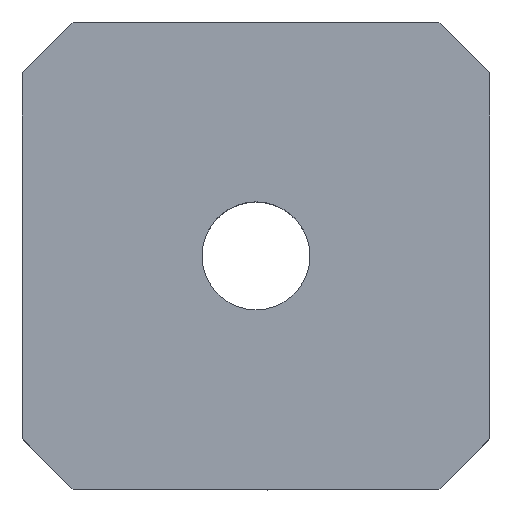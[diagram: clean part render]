
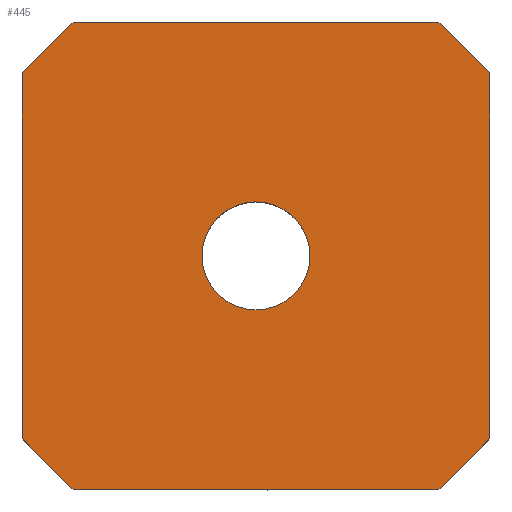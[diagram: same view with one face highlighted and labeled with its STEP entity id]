
A CAD part, top view. The second image highlights one B-rep face of the part: STEP entity #445.
In plain terms, the highlighted planar face has unit normal (0, 0, 1).
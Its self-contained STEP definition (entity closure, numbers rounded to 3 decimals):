
#213=CARTESIAN_POINT('',(5.086,-6.5,0.0));
#214=VERTEX_POINT('',#213);
#221=CARTESIAN_POINT('',(-5.086,-6.5,0.0));
#222=VERTEX_POINT('',#221);
#223=CARTESIAN_POINT('',(5.086,-6.5,0.0));
#224=DIRECTION('',(-1.0,0.0,0.0));
#225=VECTOR('',#224,10.172);
#226=LINE('',#223,#225);
#227=EDGE_CURVE('',#214,#222,#226,.T.);
#244=CARTESIAN_POINT('',(6.5,-5.086,0.0));
#245=VERTEX_POINT('',#244);
#252=CARTESIAN_POINT('',(6.5,-5.086,0.0));
#253=DIRECTION('',(-0.707,-0.707,0.0));
#254=VECTOR('',#253,2.);
#255=LINE('',#252,#254);
#256=EDGE_CURVE('',#245,#214,#255,.T.);
#268=CARTESIAN_POINT('',(6.5,5.086,0.0));
#269=VERTEX_POINT('',#268);
#276=CARTESIAN_POINT('',(6.5,5.086,0.0));
#277=DIRECTION('',(0.0,-1.0,0.0));
#278=VECTOR('',#277,10.172);
#279=LINE('',#276,#278);
#280=EDGE_CURVE('',#269,#245,#279,.T.);
#292=CARTESIAN_POINT('',(5.086,6.5,0.0));
#293=VERTEX_POINT('',#292);
#300=CARTESIAN_POINT('',(5.086,6.5,0.0));
#301=DIRECTION('',(0.707,-0.707,0.0));
#302=VECTOR('',#301,2.);
#303=LINE('',#300,#302);
#304=EDGE_CURVE('',#293,#269,#303,.T.);
#326=CARTESIAN_POINT('',(1.5,0.,0.0));
#327=VERTEX_POINT('',#326);
#328=CARTESIAN_POINT('',(0.0,0.0,0.0));
#329=DIRECTION('',(0.0,0.0,-1.0));
#330=DIRECTION('',(-1.0,0.0,0.0));
#331=AXIS2_PLACEMENT_3D('',#328,#329,#330);
#332=CIRCLE('',#331,1.5);
#333=EDGE_CURVE('',#327,#327,#332,.T.);
#344=CARTESIAN_POINT('',(-5.086,6.5,0.0));
#345=VERTEX_POINT('',#344);
#352=CARTESIAN_POINT('',(-5.086,6.5,0.0));
#353=DIRECTION('',(1.0,0.0,0.0));
#354=VECTOR('',#353,10.172);
#355=LINE('',#352,#354);
#356=EDGE_CURVE('',#345,#293,#355,.T.);
#368=CARTESIAN_POINT('',(-6.5,5.086,0.0));
#369=VERTEX_POINT('',#368);
#376=CARTESIAN_POINT('',(-6.5,5.086,0.0));
#377=DIRECTION('',(0.707,0.707,0.0));
#378=VECTOR('',#377,2.);
#379=LINE('',#376,#378);
#380=EDGE_CURVE('',#369,#345,#379,.T.);
#392=CARTESIAN_POINT('',(-6.5,-5.086,0.0));
#393=VERTEX_POINT('',#392);
#400=CARTESIAN_POINT('',(-6.5,-5.086,0.0));
#401=DIRECTION('',(0.0,1.0,0.0));
#402=VECTOR('',#401,10.172);
#403=LINE('',#400,#402);
#404=EDGE_CURVE('',#393,#369,#403,.T.);
#417=CARTESIAN_POINT('',(-5.086,-6.5,0.0));
#418=DIRECTION('',(-0.707,0.707,0.0));
#419=VECTOR('',#418,2.);
#420=LINE('',#417,#419);
#421=EDGE_CURVE('',#222,#393,#420,.T.);
#427=CARTESIAN_POINT('',(0.,0.,0.0));
#428=DIRECTION('',(0.0,0.0,1.0));
#429=DIRECTION('',(1.0,0.0,0.0));
#430=AXIS2_PLACEMENT_3D('',#427,#428,#429);
#431=PLANE('',#430);
#432=ORIENTED_EDGE('',*,*,#304,.F.);
#433=ORIENTED_EDGE('',*,*,#356,.F.);
#434=ORIENTED_EDGE('',*,*,#380,.F.);
#435=ORIENTED_EDGE('',*,*,#404,.F.);
#436=ORIENTED_EDGE('',*,*,#421,.F.);
#437=ORIENTED_EDGE('',*,*,#227,.F.);
#438=ORIENTED_EDGE('',*,*,#256,.F.);
#439=ORIENTED_EDGE('',*,*,#280,.F.);
#440=EDGE_LOOP('',(#432,#433,#434,#435,#436,#437,#438,#439));
#441=FACE_OUTER_BOUND('',#440,.T.);
#442=ORIENTED_EDGE('',*,*,#333,.T.);
#443=EDGE_LOOP('',(#442));
#444=FACE_BOUND('',#443,.T.);
#445=ADVANCED_FACE('',(#441,#444),#431,.T.);
